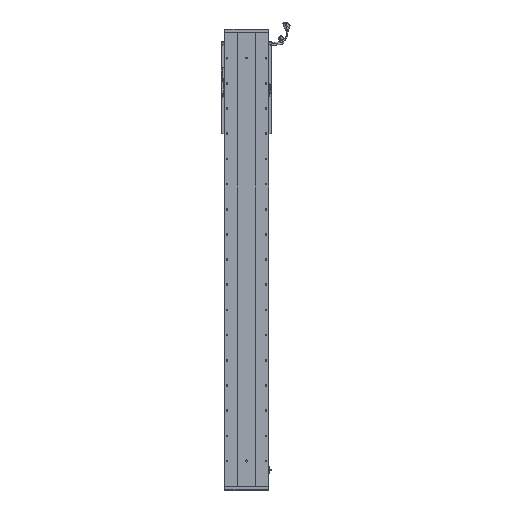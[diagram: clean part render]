
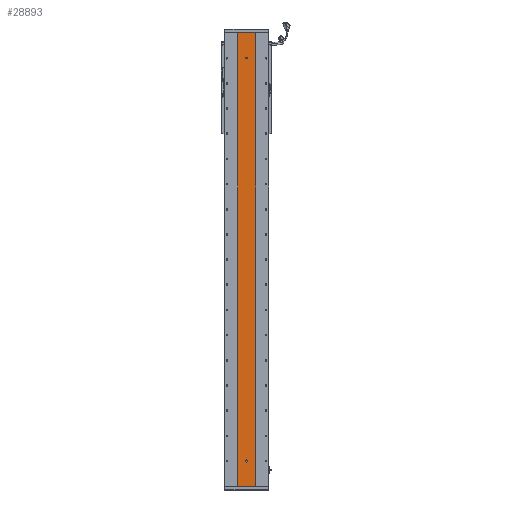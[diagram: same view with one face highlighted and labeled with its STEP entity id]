
A CAD part, front view. The second image highlights one B-rep face of the part: STEP entity #28893.
In plain terms, the highlighted planar face has unit normal (0, -1, 0).
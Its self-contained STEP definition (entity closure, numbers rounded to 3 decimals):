
#1940 = VERTEX_POINT ( 'NONE', #102341 ) ;
#2421 = VECTOR ( 'NONE', #79362, 1000. ) ;
#2521 = ORIENTED_EDGE ( 'NONE', *, *, #20131, .T. ) ;
#3168 = ORIENTED_EDGE ( 'NONE', *, *, #54526, .F. ) ;
#3958 = VECTOR ( 'NONE', #43304, 1000. ) ;
#6096 = EDGE_CURVE ( 'NONE', #35939, #87759, #81371, .T. ) ;
#6903 = DIRECTION ( 'NONE',  ( 1., 0., 0. ) ) ;
#9819 = DIRECTION ( 'NONE',  ( 0., -1., 0. ) ) ;
#11918 = ORIENTED_EDGE ( 'NONE', *, *, #63797, .F. ) ;
#12201 = ORIENTED_EDGE ( 'NONE', *, *, #89903, .F. ) ;
#12597 = AXIS2_PLACEMENT_3D ( 'NONE', #35099, #9819, #54284 ) ;
#13027 = ORIENTED_EDGE ( 'NONE', *, *, #6096, .T. ) ;
#13469 = CARTESIAN_POINT ( 'NONE',  ( 3283.529, 1415.701, 99.5 ) ) ;
#13682 = LINE ( 'NONE', #54175, #16353 ) ;
#14223 = ORIENTED_EDGE ( 'NONE', *, *, #68426, .F. ) ;
#16003 = DIRECTION ( 'NONE',  ( 0., -1., 0. ) ) ;
#16353 = VECTOR ( 'NONE', #62739, 1000. ) ;
#16518 = CIRCLE ( 'NONE', #69229, 3. ) ;
#17018 = AXIS2_PLACEMENT_3D ( 'NONE', #94549, #51852, #44061 ) ;
#20131 = EDGE_CURVE ( 'NONE', #35970, #35939, #21293, .T. ) ;
#21293 = LINE ( 'NONE', #23053, #3958 ) ;
#21660 = FACE_BOUND ( 'NONE', #45903, .T. ) ;
#23053 = CARTESIAN_POINT ( 'NONE',  ( 3244.748, 1415.701, 1802. ) ) ;
#28868 = DIRECTION ( 'NONE',  ( 0., 0., -1. ) ) ;
#28893 = ADVANCED_FACE ( 'NONE', ( #44257, #21660, #56213 ), #32869, .F. ) ;
#29729 = CARTESIAN_POINT ( 'NONE',  ( 3280.529, 1415.701, 99.5 ) ) ;
#30082 = DIRECTION ( 'NONE',  ( 0., -1., 0. ) ) ;
#31441 = CARTESIAN_POINT ( 'NONE',  ( 3280.529, 1415.701, 1704. ) ) ;
#31488 = ORIENTED_EDGE ( 'NONE', *, *, #71372, .F. ) ;
#32188 = CARTESIAN_POINT ( 'NONE',  ( 3244.748, 1415.701, 1802. ) ) ;
#32869 = PLANE ( 'NONE',  #89505 ) ;
#34830 = EDGE_CURVE ( 'NONE', #43487, #35752, #13682, .T. ) ;
#35099 = CARTESIAN_POINT ( 'NONE',  ( 3280.529, 1415.701, 1701. ) ) ;
#35752 = VERTEX_POINT ( 'NONE', #107214 ) ;
#35939 = VERTEX_POINT ( 'NONE', #93466 ) ;
#35970 = VERTEX_POINT ( 'NONE', #44064 ) ;
#36139 = VECTOR ( 'NONE', #94094, 1000. ) ;
#41313 = ORIENTED_EDGE ( 'NONE', *, *, #34830, .F. ) ;
#41609 = LINE ( 'NONE', #62475, #86800 ) ;
#41649 = ORIENTED_EDGE ( 'NONE', *, *, #99178, .F. ) ;
#43304 = DIRECTION ( 'NONE',  ( 0., 0., -1. ) ) ;
#43487 = VERTEX_POINT ( 'NONE', #78155 ) ;
#43584 = VERTEX_POINT ( 'NONE', #13469 ) ;
#44061 = DIRECTION ( 'NONE',  ( 0., 0., -1. ) ) ;
#44064 = CARTESIAN_POINT ( 'NONE',  ( 3244.748, 1415.701, 1802. ) ) ;
#44257 = FACE_BOUND ( 'NONE', #103181, .T. ) ;
#45903 = EDGE_LOOP ( 'NONE', ( #56530, #87129 ) ) ;
#47719 = LINE ( 'NONE', #71563, #2421 ) ;
#49263 = CARTESIAN_POINT ( 'NONE',  ( 3280.529, 1415.701, 1698. ) ) ;
#51852 = DIRECTION ( 'NONE',  ( 0., -1., 0. ) ) ;
#52836 = VERTEX_POINT ( 'NONE', #49263 ) ;
#52854 = CARTESIAN_POINT ( 'NONE',  ( 3244.748, 1415.701, 0. ) ) ;
#54175 = CARTESIAN_POINT ( 'NONE',  ( 3277.529, 1415.701, 102.5 ) ) ;
#54284 = DIRECTION ( 'NONE',  ( 0., 0., -1. ) ) ;
#54526 = EDGE_CURVE ( 'NONE', #35970, #79702, #67988, .T. ) ;
#55175 = CARTESIAN_POINT ( 'NONE',  ( 3316.311, 1415.701, 0. ) ) ;
#55335 = CIRCLE ( 'NONE', #12597, 3. ) ;
#56213 = FACE_OUTER_BOUND ( 'NONE', #65517, .T. ) ;
#56530 = ORIENTED_EDGE ( 'NONE', *, *, #84621, .F. ) ;
#56574 = AXIS2_PLACEMENT_3D ( 'NONE', #29729, #16003, #74706 ) ;
#56687 = DIRECTION ( 'NONE',  ( 0., 1., 0. ) ) ;
#62475 = CARTESIAN_POINT ( 'NONE',  ( 3283.529, 1415.701, 102.5 ) ) ;
#62739 = DIRECTION ( 'NONE',  ( 0., 0., -1. ) ) ;
#63459 = DIRECTION ( 'NONE',  ( 0., -1., 0. ) ) ;
#63797 = EDGE_CURVE ( 'NONE', #99916, #43487, #87777, .T. ) ;
#64072 = CARTESIAN_POINT ( 'NONE',  ( 3316.311, 1415.701, 1802. ) ) ;
#65236 = DIRECTION ( 'NONE',  ( 0., 0., 1. ) ) ;
#65517 = EDGE_LOOP ( 'NONE', ( #13027, #41649, #3168, #2521 ) ) ;
#67365 = VERTEX_POINT ( 'NONE', #31441 ) ;
#67988 = LINE ( 'NONE', #32188, #86683 ) ;
#68426 = EDGE_CURVE ( 'NONE', #1940, #43584, #101412, .T. ) ;
#69229 = AXIS2_PLACEMENT_3D ( 'NONE', #81738, #30082, #82116 ) ;
#71372 = EDGE_CURVE ( 'NONE', #43584, #99916, #41609, .T. ) ;
#71563 = CARTESIAN_POINT ( 'NONE',  ( 3316.311, 1415.701, 1802. ) ) ;
#74706 = DIRECTION ( 'NONE',  ( 0., 0., -1. ) ) ;
#78155 = CARTESIAN_POINT ( 'NONE',  ( 3277.529, 1415.701, 102.5 ) ) ;
#78518 = EDGE_CURVE ( 'NONE', #67365, #52836, #55335, .T. ) ;
#79362 = DIRECTION ( 'NONE',  ( 0., 0., -1. ) ) ;
#79702 = VERTEX_POINT ( 'NONE', #64072 ) ;
#79776 = CARTESIAN_POINT ( 'NONE',  ( 3280.529, 1415.701, 102.5 ) ) ;
#81371 = LINE ( 'NONE', #52854, #36139 ) ;
#81738 = CARTESIAN_POINT ( 'NONE',  ( 3280.529, 1415.701, 1701. ) ) ;
#81762 = AXIS2_PLACEMENT_3D ( 'NONE', #79776, #63459, #28868 ) ;
#82116 = DIRECTION ( 'NONE',  ( 0., 0., -1. ) ) ;
#84621 = EDGE_CURVE ( 'NONE', #52836, #67365, #16518, .T. ) ;
#86683 = VECTOR ( 'NONE', #6903, 1000. ) ;
#86800 = VECTOR ( 'NONE', #87720, 1000. ) ;
#87129 = ORIENTED_EDGE ( 'NONE', *, *, #78518, .F. ) ;
#87720 = DIRECTION ( 'NONE',  ( 0., 0., 1. ) ) ;
#87759 = VERTEX_POINT ( 'NONE', #55175 ) ;
#87777 = CIRCLE ( 'NONE', #81762, 3. ) ;
#89505 = AXIS2_PLACEMENT_3D ( 'NONE', #100850, #56687, #65236 ) ;
#89903 = EDGE_CURVE ( 'NONE', #35752, #1940, #94758, .T. ) ;
#92903 = CARTESIAN_POINT ( 'NONE',  ( 3283.529, 1415.701, 102.5 ) ) ;
#93466 = CARTESIAN_POINT ( 'NONE',  ( 3244.748, 1415.701, 0. ) ) ;
#94094 = DIRECTION ( 'NONE',  ( 1., 0., 0. ) ) ;
#94549 = CARTESIAN_POINT ( 'NONE',  ( 3280.529, 1415.701, 99.5 ) ) ;
#94758 = CIRCLE ( 'NONE', #17018, 3. ) ;
#99178 = EDGE_CURVE ( 'NONE', #79702, #87759, #47719, .T. ) ;
#99916 = VERTEX_POINT ( 'NONE', #92903 ) ;
#100850 = CARTESIAN_POINT ( 'NONE',  ( 3244.748, 1415.701, 1802. ) ) ;
#101412 = CIRCLE ( 'NONE', #56574, 3. ) ;
#102341 = CARTESIAN_POINT ( 'NONE',  ( 3280.529, 1415.701, 96.5 ) ) ;
#103181 = EDGE_LOOP ( 'NONE', ( #12201, #41313, #11918, #31488, #14223 ) ) ;
#107214 = CARTESIAN_POINT ( 'NONE',  ( 3277.529, 1415.701, 99.5 ) ) ;
